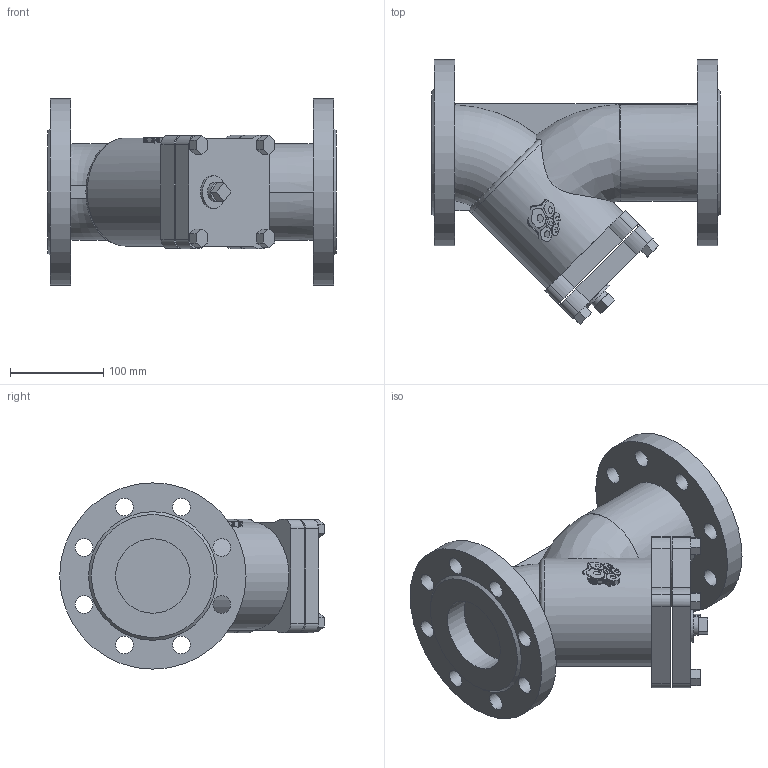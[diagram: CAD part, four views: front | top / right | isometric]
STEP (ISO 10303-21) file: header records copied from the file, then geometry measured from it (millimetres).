
FILE_DESCRIPTION(('STEP AP203'), '1');
FILE_NAME('3D_600_601-080-16_1,2', '', ('UNSPECIFIED'), ('UNSPECIFIED'), 'C3D Converter', 'C3D Toolkit', '');
FILE_SCHEMA(('CONFIG_CONTROL_DESIGN'));
Length unit declared in the file: millimetre
Bounding box: 310 x 284 x 200 mm (x, y, z)
Volume: 4686710.2 mm3; surface area: 338153.9 mm2
Topology: 2 solids, 2 shells, 950 faces, 2762 edges, 1840 vertices
Faces by surface type: plane 892, cylinder 49, bspline 4, torus 3, cone 2
Full cylindrical faces by diameter (mm): 19 x16, 20 x1, 35 x1, 80 x2, 116 x1, 200 x2
Entity records: 48010 total; most frequent: CARTESIAN_POINT 17496, ORIENTED_EDGE 5474, DIRECTION 3913, EDGE_CURVE 2737, VERTEX_POINT 1840, LINE 1789, VECTOR 1789, AXIS2_PLACEMENT_3D 1062
